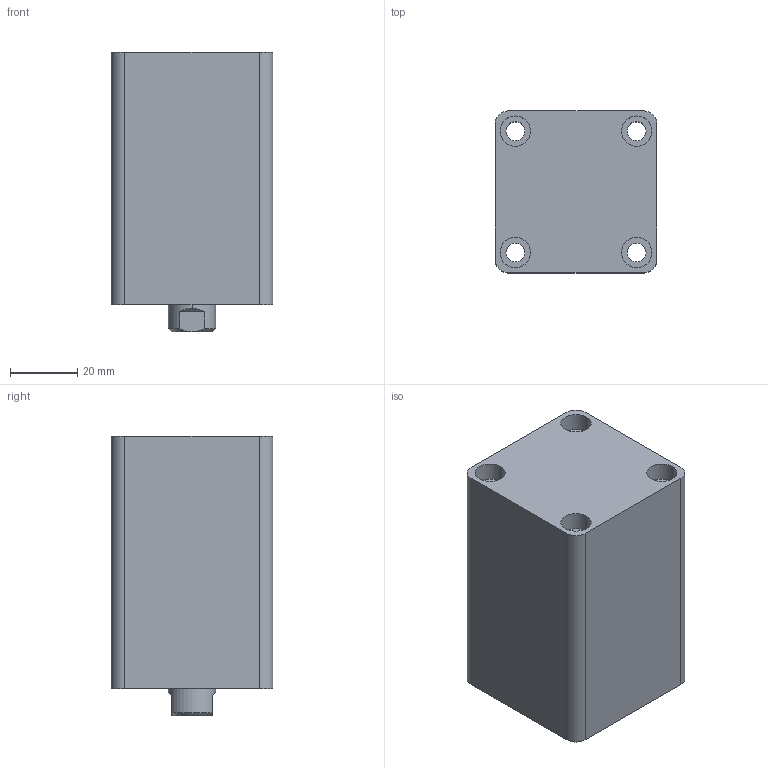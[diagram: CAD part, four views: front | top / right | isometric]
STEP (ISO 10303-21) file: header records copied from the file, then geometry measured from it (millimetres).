
FILE_DESCRIPTION (( 'STEP AP203' ), '1' );
FILE_NAME ('HTB-SD25-30N.STEP', '2019-10-07T05:59:48', ( '微软用户' ), ( '微软中国' ), 'SwSTEP 2.0', 'SolidWorks 2012', '' );
FILE_SCHEMA (( 'CONFIG_CONTROL_DESIGN' ));
Length unit declared in the file: millimetre
Products named in the file (3): HTB-SD25-30掛极; HTB-SD25-30N活塞杆; HTB-SD25-30N
Assembly tree (2 placements, depth 2):
  HTB-SD25-30N
    HTB-SD25-30掛极
    HTB-SD25-30N活塞杆
Bounding box: 48 x 48 x 83 mm (x, y, z)
Volume: 151808.4 mm3; surface area: 34789.6 mm2
Topology: 2 solids, 2 shells, 83 faces, 182 edges, 117 vertices
Faces by surface type: cylinder 42, plane 27, cone 8, torus 6
Entity records: 2653 total; most frequent: DIRECTION 454, CARTESIAN_POINT 429, ORIENTED_EDGE 360, AXIS2_PLACEMENT_3D 194, EDGE_CURVE 180, VERTEX_POINT 117, EDGE_LOOP 107, CIRCLE 106
